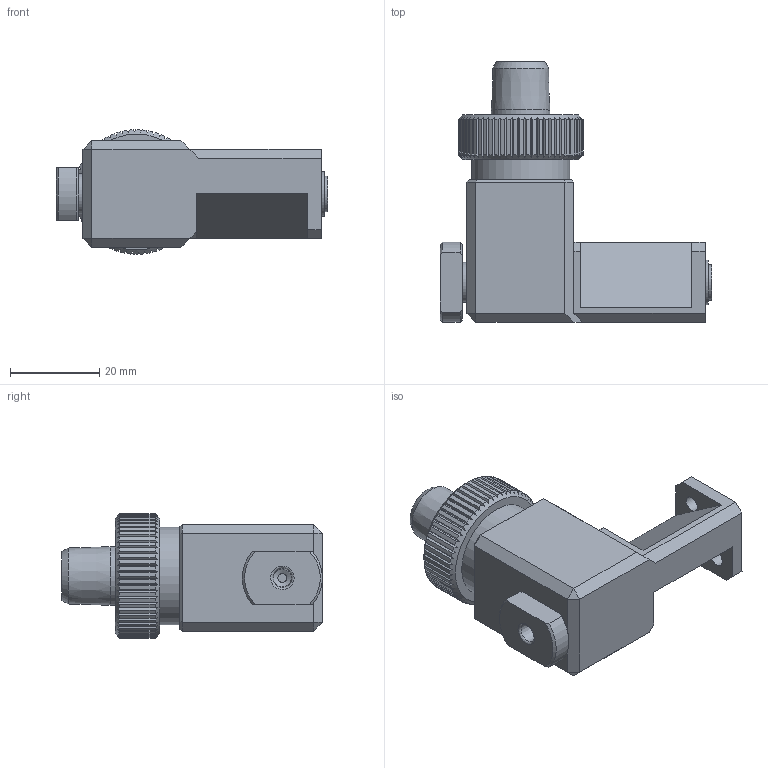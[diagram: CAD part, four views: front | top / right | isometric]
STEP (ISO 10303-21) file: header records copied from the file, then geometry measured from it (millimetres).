
FILE_DESCRIPTION (( 'STEP AP214' ), '1' );
FILE_NAME ('PCPM-310-S.STEP', '2024-10-14T09:57:47', ( '' ), ( '' ), 'SwSTEP 2.0', 'SolidWorks 2024', '' );
FILE_SCHEMA (( 'AUTOMOTIVE_DESIGN' ));
Length unit declared in the file: millimetre
Products named in the file (1): PCPM-310-S
Bounding box: 61 x 58.57 x 28 mm (x, y, z)
Volume: 31010.1 mm3; surface area: 14026.6 mm2
Topology: 3 solids, 3 shells, 301 faces, 802 edges, 526 vertices
Faces by surface type: plane 186, cylinder 92, cone 22, bspline 1
Full cylindrical faces by diameter (mm): 1 x1, 2 x2, 3.5 x2, 4 x3, 5.2 x1, 6 x1, 6.6 x2, 6.8 x1, 8 x3, 9 x2, 10 x3, 10.2 x1, 13.157 x1, 14 x1, 14.8 x1, 18 x1, 18.2 x2, 18.4 x1, 22 x1
Entity records: 9449 total; most frequent: CARTESIAN_POINT 2491, ORIENTED_EDGE 1480, DIRECTION 1287, EDGE_CURVE 740, VERTEX_POINT 512, AXIS2_PLACEMENT_3D 502, EDGE_LOOP 380, FACE_OUTER_BOUND 332
